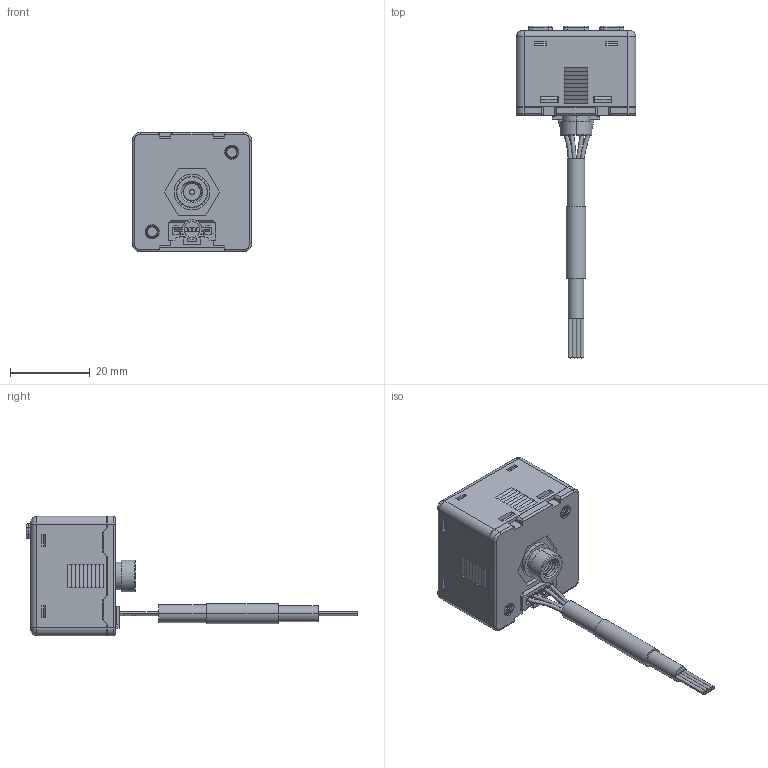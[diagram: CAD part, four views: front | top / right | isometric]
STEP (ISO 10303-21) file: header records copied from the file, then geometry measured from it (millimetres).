
FILE_DESCRIPTION((''),'2;1');
FILE_NAME('KP47_M5','2019-07-08T',('Stark'),(''),'CREO PARAMETRIC BY PTC INC, 2014500','CREO PARAMETRIC BY PTC INC, 2014500','');
FILE_SCHEMA(('CONFIG_CONTROL_DESIGN'));
Length unit declared in the file: millimetre
Products named in the file (1): KP47_M5
Bounding box: 30 x 83.35 x 30 mm (x, y, z)
Volume: 19587.4 mm3; surface area: 6780.9 mm2
Topology: 2 solids, 2 shells, 778 faces, 1988 edges, 1238 vertices
Faces by surface type: plane 579, cylinder 131, bspline 39, torus 17, cone 12
Entity records: 31967 total; most frequent: CARTESIAN_POINT 13472, ORIENTED_EDGE 3976, DIRECTION 3498, EDGE_CURVE 1988, VECTOR 1610, LINE 1610, VERTEX_POINT 1238, AXIS2_PLACEMENT_3D 944
